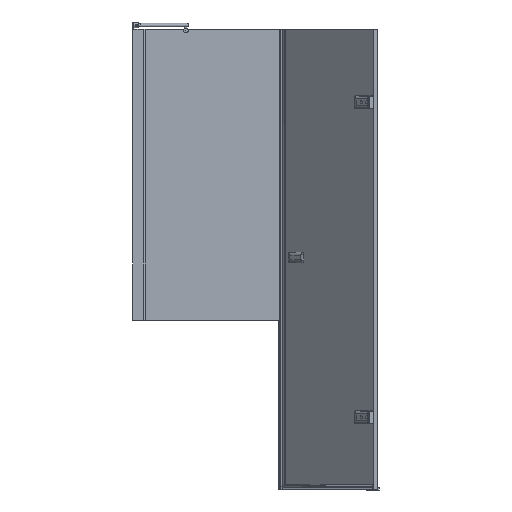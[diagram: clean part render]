
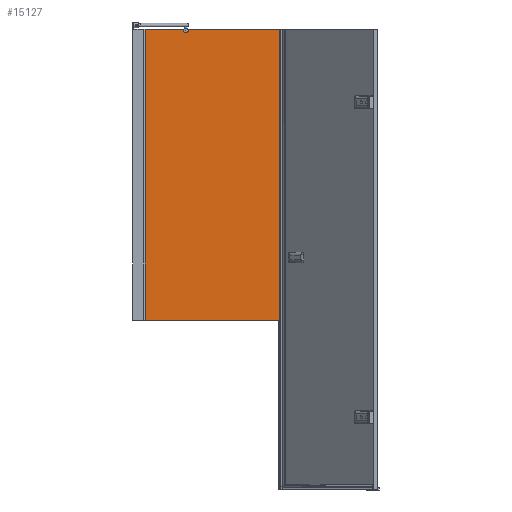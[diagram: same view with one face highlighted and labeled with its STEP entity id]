
A CAD part, left-side view. The second image highlights one B-rep face of the part: STEP entity #15127.
In plain terms, the highlighted planar face has unit normal (-1, 0, 0).
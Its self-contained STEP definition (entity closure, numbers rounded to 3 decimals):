
#892=LINE($,#24673,#2399);
#1024=LINE($,#25054,#2531);
#1028=LINE($,#25064,#2535);
#1040=LINE($,#25088,#2547);
#1041=LINE($,#25089,#2548);
#2399=VECTOR($,#18822,376.666);
#2531=VECTOR($,#19170,553.);
#2535=VECTOR($,#19178,1200.);
#2547=VECTOR($,#19208,158.474);
#2548=VECTOR($,#19209,1200.);
#3994=FACE_OUTER_BOUND($,#4839,.T.);
#4839=EDGE_LOOP($,(#11573,#11574,#11575,#11576,#11577,#11578));
#5480=CIRCLE($,#16140,10.);
#6398=VERTEX_POINT($,#24455);
#6399=VERTEX_POINT($,#24456);
#6422=VERTEX_POINT($,#24672);
#6562=VERTEX_POINT($,#25051);
#6563=VERTEX_POINT($,#25053);
#6567=VERTEX_POINT($,#25063);
#8099=EDGE_CURVE($,#6398,#6399,#5480,.T.);
#8130=EDGE_CURVE($,#6422,#6398,#892,.T.);
#8324=EDGE_CURVE($,#6562,#6563,#1024,.T.);
#8329=EDGE_CURVE($,#6567,#6563,#1028,.T.);
#8342=EDGE_CURVE($,#6399,#6567,#1040,.T.);
#8343=EDGE_CURVE($,#6422,#6562,#1041,.T.);
#11573=ORIENTED_EDGE($,*,*,#8099,.T.);
#11574=ORIENTED_EDGE($,*,*,#8342,.T.);
#11575=ORIENTED_EDGE($,*,*,#8329,.T.);
#11576=ORIENTED_EDGE($,*,*,#8324,.F.);
#11577=ORIENTED_EDGE($,*,*,#8343,.F.);
#11578=ORIENTED_EDGE($,*,*,#8130,.T.);
#13673=PLANE($,#16282);
#15127=ADVANCED_FACE($,(#3994),#13673,.T.);
#16140=AXIS2_PLACEMENT_3D($,#24457,#18761,#18762);
#16282=AXIS2_PLACEMENT_3D($,#25087,#19206,#19207);
#18761=DIRECTION('center_axis',(1.,0.,0.));
#18762=DIRECTION('ref_axis',(0.,0.597,0.802));
#18822=DIRECTION($,(0.,1.,0.));
#19170=DIRECTION($,(0.,1.,0.));
#19178=DIRECTION($,(0.,0.,-1.));
#19206=DIRECTION('center_axis',(-1.,0.,0.));
#19207=DIRECTION('ref_axis',(0.,1.,0.));
#19208=DIRECTION($,(0.,1.,0.));
#19209=DIRECTION($,(0.,0.,-1.));
#24455=CARTESIAN_POINT('',(1269.612,617.622,1485.944));
#24456=CARTESIAN_POINT('',(1269.612,635.482,1485.944));
#24457=CARTESIAN_POINT('Origin',(1269.612,626.552,1481.444));
#24672=CARTESIAN_POINT('',(1269.612,240.956,1485.944));
#24673=CARTESIAN_POINT($,(1269.612,235.956,1485.944));
#25051=CARTESIAN_POINT('',(1269.612,240.956,285.944));
#25053=CARTESIAN_POINT('',(1269.612,793.956,285.944));
#25054=CARTESIAN_POINT($,(1269.612,235.956,285.944));
#25063=CARTESIAN_POINT('',(1269.612,793.956,1485.944));
#25064=CARTESIAN_POINT($,(1269.612,793.956,1485.944));
#25087=CARTESIAN_POINT('Origin',(1269.612,235.956,1485.944));
#25088=CARTESIAN_POINT($,(1269.612,235.956,1485.944));
#25089=CARTESIAN_POINT($,(1269.612,240.956,535.944));
